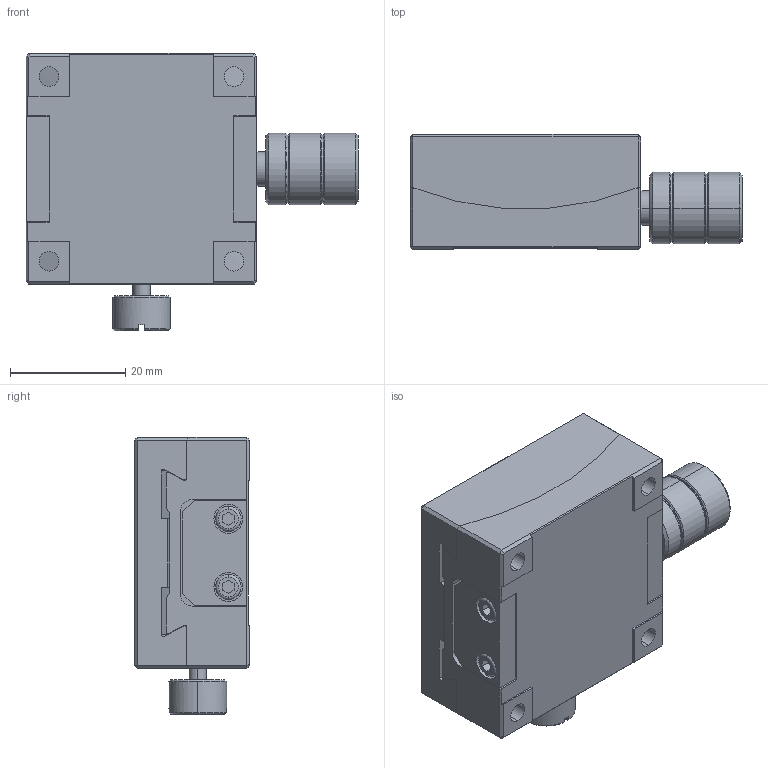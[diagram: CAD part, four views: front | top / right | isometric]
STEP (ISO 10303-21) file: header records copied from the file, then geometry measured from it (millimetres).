
FILE_DESCRIPTION (( 'STEP AP203' ), '1' );
FILE_NAME ('PT-SD4415.STEP', '2025-12-05T01:43:19', ( '' ), ( '' ), 'SwSTEP 2.0', 'SolidWorks 2025', '' );
FILE_SCHEMA (( 'CONFIG_CONTROL_DESIGN' ));
Length unit declared in the file: millimetre
Products named in the file (4): GFG4038____.STEP; GFG4030-C40H20.STEP; PT-SD4415; GFG4038____-0.STEP
Assembly tree (3 placements, depth 3):
  PT-SD4415
    GFG4030-C40H20.STEP
      GFG4038____.STEP
      GFG4038____-0.STEP
Bounding box: 57.5 x 20 x 48 mm (x, y, z)
Volume: 32009.5 mm3; surface area: 13623.9 mm2
Topology: 2 solids, 2 shells, 272 faces, 658 edges, 411 vertices
Faces by surface type: plane 125, cylinder 82, cone 45, torus 20
Entity records: 9050 total; most frequent: CARTESIAN_POINT 2297, DIRECTION 1339, ORIENTED_EDGE 1292, EDGE_CURVE 646, AXIS2_PLACEMENT_3D 484, VERTEX_POINT 411, LINE 371, VECTOR 371
